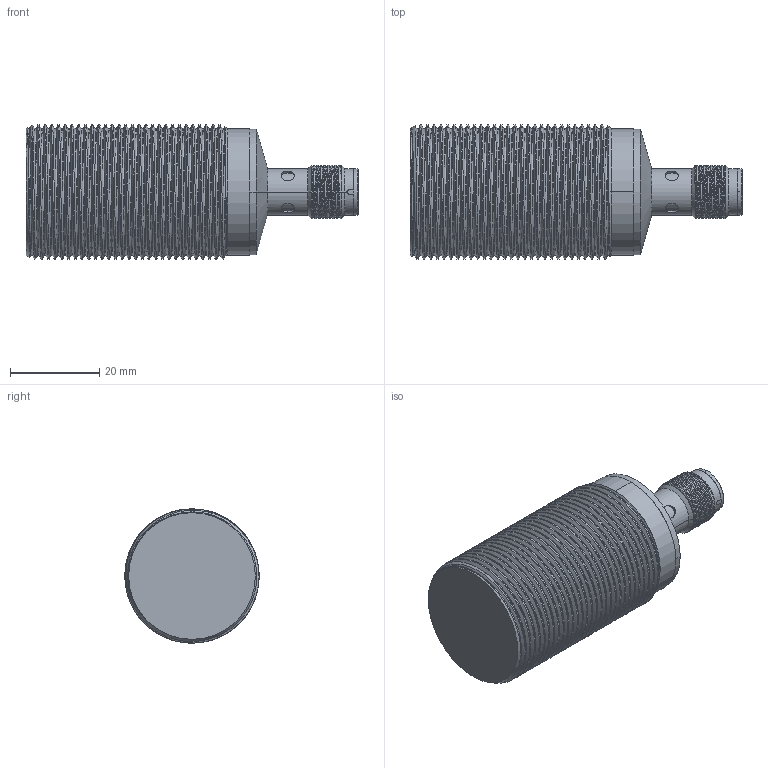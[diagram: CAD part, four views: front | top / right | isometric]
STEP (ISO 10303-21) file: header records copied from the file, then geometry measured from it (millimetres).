
FILE_DESCRIPTION((''),'2;1');
FILE_NAME('M30FLUSHPLUG_ASM','2020-10-28T',('Daisy.Wang'),(''),'CREO PARAMETRIC BY PTC INC, 2015480','CREO PARAMETRIC BY PTC INC, 2015480','');
FILE_SCHEMA(('CONFIG_CONTROL_DESIGN'));
Length unit declared in the file: millimetre
Products named in the file (12): MECK109M30HOUSINGFLUSH; M30-PC; COPPE-FOIL-COIL; 31828; MECK11030REARPART; M30-COIL-SUPPORT; M30LONG_FLUSH_PLUG_PCB; M12CONNECTOR; PIN_FULLMETAL; ORING-PLUGM12; CONNECTOR-PIN_ASM; M30FLUSHPLUG_ASM
Assembly tree (14 placements, depth 3):
  M30FLUSHPLUG_ASM
    MECK109M30HOUSINGFLUSH
    M30-PC
    COPPE-FOIL-COIL
    31828
    MECK11030REARPART
    M30-COIL-SUPPORT
    M30LONG_FLUSH_PLUG_PCB
    CONNECTOR-PIN_ASM
      M12CONNECTOR
      PIN_FULLMETAL  x4
      ORING-PLUGM12
Bounding box: 74.2 x 30 x 30 mm (x, y, z)
Volume: 11467.4 mm3; surface area: 24202.1 mm2
Topology: 12 solids, 13 shells, 522 faces, 1313 edges, 816 vertices
Faces by surface type: cylinder 212, plane 129, bspline 68, cone 60, torus 41, sphere 12
Entity records: 32655 total; most frequent: CARTESIAN_POINT 21434, ORIENTED_EDGE 2403, DIRECTION 2133, EDGE_CURVE 1209, AXIS2_PLACEMENT_3D 836, VERTEX_POINT 759, EDGE_LOOP 512, FACE_OUTER_BOUND 477
